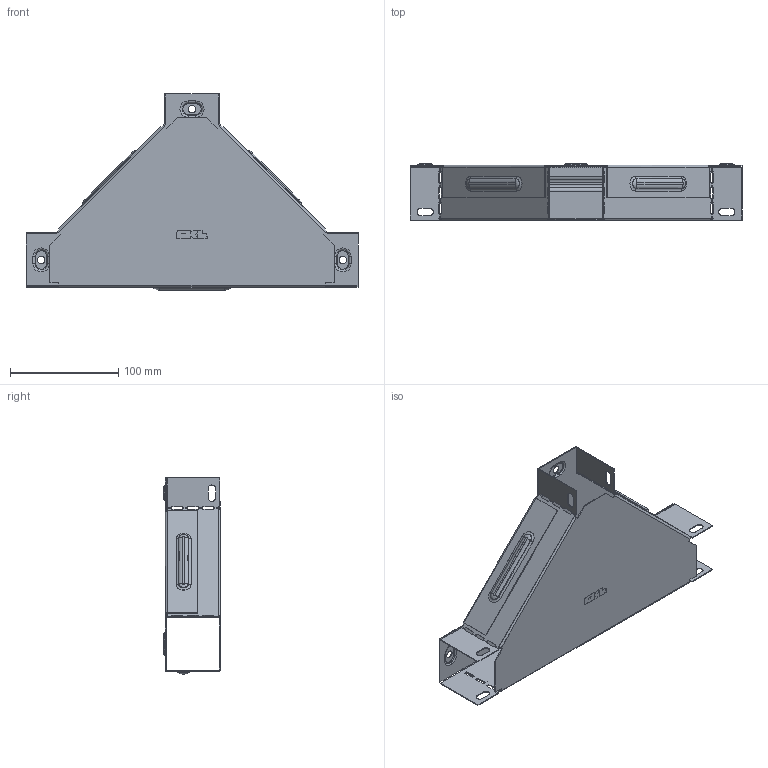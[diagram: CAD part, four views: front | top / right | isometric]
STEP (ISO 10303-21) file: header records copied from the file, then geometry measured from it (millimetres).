
FILE_DESCRIPTION (( 'STEP AP214' ), '1' );
FILE_NAME ('t505008_捘.STEP', '2019-06-10T08:07:16', ( '砐錪賧瘔蠈錪 Windows' ), ( '' ), 'SwSTEP 2.0', 'SolidWorks 2018', '' );
FILE_SCHEMA (( 'AUTOMOTIVE_DESIGN' ));
Length unit declared in the file: millimetre
Products named in the file (1): t505008_捘
Bounding box: 306.4 x 52.4 x 181 mm (x, y, z)
Volume: 86354.5 mm3; surface area: 218422.1 mm2
Topology: 2 solids, 2 shells, 566 faces, 1584 edges, 1028 vertices
Faces by surface type: plane 328, cylinder 148, torus 72, bspline 18
Entity records: 19205 total; most frequent: CARTESIAN_POINT 4259, ORIENTED_EDGE 3168, DIRECTION 3050, EDGE_CURVE 1584, VECTOR 1144, LINE 1144, VERTEX_POINT 1028, AXIS2_PLACEMENT_3D 953
